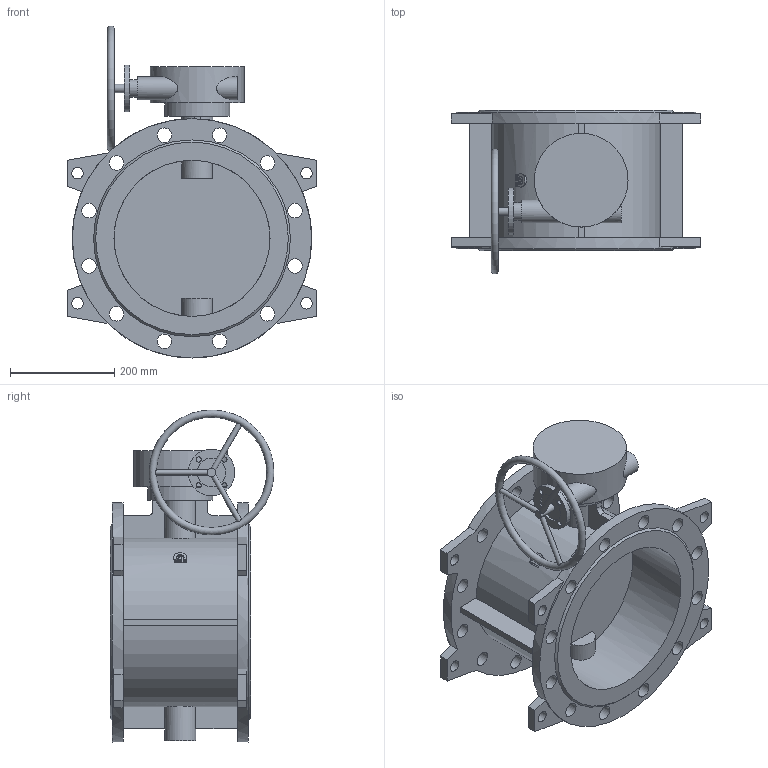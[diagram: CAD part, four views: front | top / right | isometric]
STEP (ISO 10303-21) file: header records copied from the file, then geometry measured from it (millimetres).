
FILE_DESCRIPTION(('STEP AP203'), '1');
FILE_NAME('Çàòâîð 023F.Z DN300 PN16_ìàõ', '', ('UNSPECIFIED'), ('UNSPECIFIED'), 'ASCON STEP Converter 1.6', 'ASCON Math Kernel', '');
FILE_SCHEMA(('CONFIG_CONTROL_DESIGN'));
Length unit declared in the file: millimetre
Bounding box: 480 x 314.98 x 637.96 mm (x, y, z)
Volume: 12715693.9 mm3; surface area: 1342378.1 mm2
Topology: 1 solids, 1 shells, 170 faces, 431 edges, 287 vertices
Faces by surface type: plane 90, cylinder 77, cone 2, torus 1
Full cylindrical faces by diameter (mm): 8.3 x4, 10 x7, 12 x4, 16 x1, 22 x8, 28 x24, 34 x1, 44 x1, 55 x1, 60 x1, 90 x1, 125 x1, 180 x1, 300 x2, 460 x2
Entity records: 8806 total; most frequent: CARTESIAN_POINT 3294, DIRECTION 843, ORIENTED_EDGE 734, EDGE_CURVE 367, EDGE_LOOP 333, AXIS2_PLACEMENT_3D 331, VERTEX_POINT 286, FACE_BOUND 216
